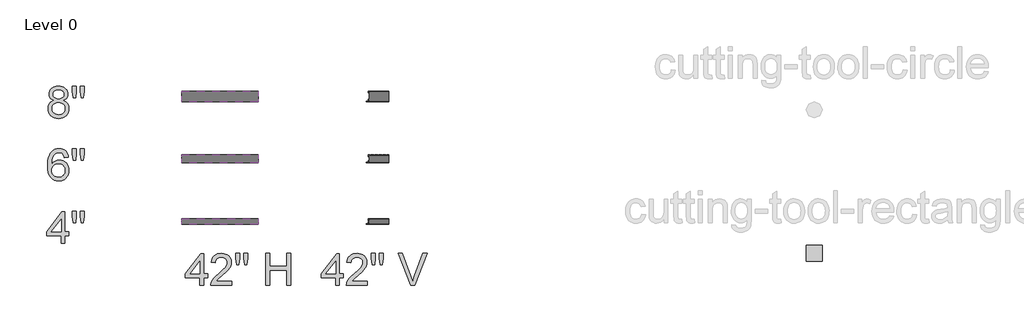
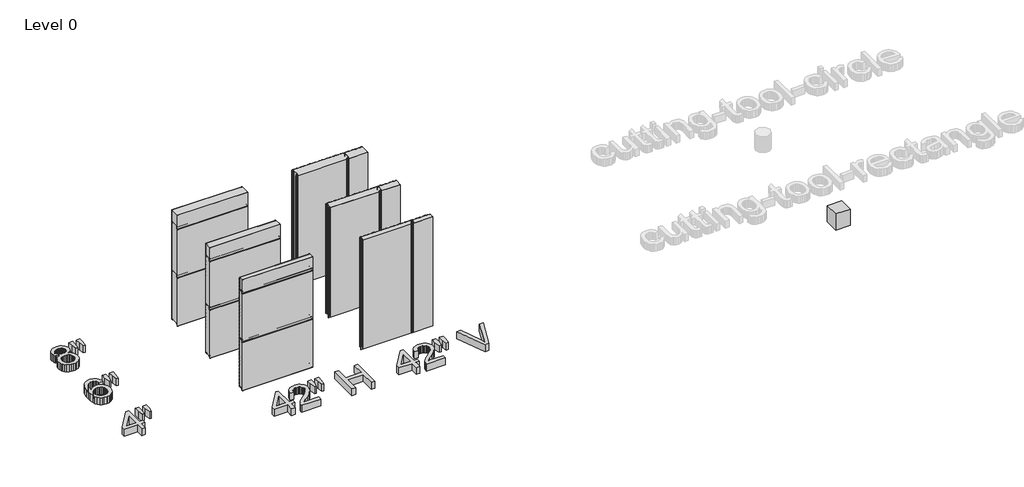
# One storey, part 1 of 3: 15 plates, 6 proxies.
"""IFC4 building model written with IfcOpenShell, lengths in millimetres."""

from ifc_helpers import new_model, si_unit, origin, origin_with_axes, place, context, project, spatial, polyline, outline, extrude, transform, mapped, element, save
from components import kingspan_ks_cutting_tool_rectangle_cutting_tool_rectangle_f435e5aa, plate_0a17265c, plate_69485673, plate_2533484a, plate_4c4554a8, plate_1017e4c0, plate_c80c6800, plate_48e6c5c1, plate_63041f73, plate_7318fa28, plate_f24b289d, plate_0e0b5b4f, plate_6cb468a7, plate_d381e52e, plate_027f6629, plate_cf5771db

model = new_model("IFC4")

# Units and contexts
model_context = context("Model", 3, world=origin())
ifc_project = project(units=[si_unit("LENGTHUNIT", "METRE", prefix="MILLI")], contexts=[model_context])

# Site, building, storey
site = spatial("IfcSite", under=ifc_project)
building = spatial("IfcBuilding", under=site)
storey = spatial("IfcBuildingStorey", under=building, Name="Level 0", Elevation=0.0)

# Proxies
placement = place(None, origin())
element("IfcBuildingElementProxy", 1, Name="24\" Arial", ObjectType="24\" Arial", at=placement, inside=storey, context=model_context, shape_type="SweptSolid", body=[
    extrude(outline(polyline([(-11480.8304674, 9099.5393595), (-11480.8304674, 9242.3051848), (-11756.8443964, 9242.3051848), (-11756.8443964, 9318.4469584), (-11461.795024, 9699.1558259), (-11404.6886939, 9699.1558259), (-11404.6886939, 9318.4469584), (-11328.5469203, 9318.4469584), (-11328.5469203, 9242.3051848), (-11404.6886939, 9242.3051848), (-11404.6886939, 9099.5393595), (-11480.8304674, 9099.5393595)]), holes=[polyline([(-11480.8304674, 9318.4469584), (-11480.8304674, 9553.7131414), (-11663.1543235, 9318.4469584), (-11480.8304674, 9318.4469584)])]), origin_with_axes(), (0.0, 0.0, 1.0), 152.4),
    extrude(outline(polyline([(-11243.3335683, 9489.7659488), (-11261.9228685, 9607.3990403), (-11261.9228685, 9708.6735476), (-11185.781095, 9708.6735476), (-11185.781095, 9607.3990403), (-11202.437108, 9489.7659488), (-11243.3335683, 9489.7659488)])), origin_with_axes(), (0.0, 0.0, 1.0), 152.4),
    extrude(outline(polyline([(-11091.4961645, 9489.7659488), (-11109.6393215, 9607.3990403), (-11109.6393215, 9708.6735476), (-11033.497548, 9708.6735476), (-11033.497548, 9607.3990403), (-11051.3432761, 9489.7659488), (-11091.4961645, 9489.7659488)])), origin_with_axes(), (0.0, 0.0, 1.0), 152.4),
])
element("IfcBuildingElementProxy", 2, Name="24\" Arial", ObjectType="24\" Arial", at=placement, inside=storey, context=model_context, shape_type="SweptSolid", body=[
    extrude(outline(polyline([(-8830.6863907, 8292.8033745), (-8830.6863907, 8435.5691999), (-9106.7003197, 8435.5691999), (-9106.7003197, 8511.7109734), (-8811.6509473, 8892.419841), (-8754.5446171, 8892.419841), (-8754.5446171, 8511.7109734), (-8678.4028436, 8511.7109734), (-8678.4028436, 8435.5691999), (-8754.5446171, 8435.5691999), (-8754.5446171, 8292.8033745), (-8830.6863907, 8292.8033745)]), holes=[polyline([(-8830.6863907, 8511.7109734), (-8830.6863907, 8746.9771564), (-9013.0102468, 8511.7109734), (-8830.6863907, 8511.7109734)])]), origin_with_axes(), (0.0, 0.0, 1.0), 152.4),
    extrude(outline(polyline([(-8221.5522025, 8368.9451481), (-8221.5522025, 8292.8033745), (-8621.2965135, 8292.8033745), (-8619.6234765, 8319.6091454), (-8613.1172214, 8345.2995582), (-8594.3420282, 8386.3261437), (-8566.8670426, 8426.1258354), (-8527.1231188, 8467.7844571), (-8471.5411113, 8514.3878326), (-8389.3764045, 8587.3694251), (-8340.0775804, 8641.241217), (-8325.6987567, 8663.2509484), (-8315.4281684, 8684.963251), (-8309.2658154, 8706.3781248), (-8307.2116977, 8727.4955698), (-8309.1496323, 8747.3628844), (-8314.9634359, 8765.6222245), (-8324.6531086, 8782.2735901), (-8338.2186504, 8797.3169813), (-8354.9071946, 8809.7764597), (-8373.9658747, 8818.6760872), (-8395.3946904, 8824.0158637), (-8419.193642, 8825.7957892), (-8444.2659606, 8824.0576896), (-8466.6893039, 8818.8433909), (-8486.463672, 8810.1528931), (-8503.5890648, 8797.9861961), (-8517.4427407, 8782.7522646), (-8527.4019583, 8764.8600632), (-8533.4667175, 8744.3095918), (-8535.6370183, 8721.1008506), (-8611.7787918, 8730.6185723), (-8605.2307108, 8769.9256475), (-8593.3196167, 8804.2693796), (-8576.0455095, 8833.6497685), (-8553.4083892, 8858.0668143), (-8525.9287563, 8877.2602667), (-8494.127111, 8890.9698756), (-8458.0034534, 8899.1956409), (-8417.5577836, 8901.9375627), (-8376.7496224, 8898.8889174), (-8340.4307771, 8889.7429818), (-8308.6012479, 8874.4997556), (-8281.2610347, 8853.159239), (-8259.3024238, 8827.3015225), (-8243.6177018, 8798.5066965), (-8234.2068686, 8766.7747611), (-8231.0699242, 8732.1057163), (-8234.4531768, 8695.6892772), (-8244.6029347, 8659.9048744), (-8262.6159666, 8623.5070247), (-8289.5890412, 8585.2502449), (-8332.5860925, 8539.5763344), (-8398.6710546, 8480.9270923), (-8486.263837, 8407.6852496), (-8520.6168637, 8368.9451481), (-8221.5522025, 8368.9451481)])), origin_with_axes(), (0.0, 0.0, 1.0), 152.4),
    extrude(outline(polyline([(-8126.8211288, 8683.0299638), (-8145.410429, 8800.6630553), (-8145.410429, 8901.9375627), (-8069.2686555, 8901.9375627), (-8069.2686555, 8800.6630553), (-8085.9246684, 8683.0299638), (-8126.8211288, 8683.0299638)])), origin_with_axes(), (0.0, 0.0, 1.0), 152.4),
    extrude(outline(polyline([(-7974.983725, 8683.0299638), (-7993.126882, 8800.6630553), (-7993.126882, 8901.9375627), (-7916.9851084, 8901.9375627), (-7916.9851084, 8800.6630553), (-7934.8308366, 8683.0299638), (-7974.983725, 8683.0299638)])), origin_with_axes(), (0.0, 0.0, 1.0), 152.4),
    extrude(outline(polyline([(-7574.3471276, 8292.8033745), (-7574.3471276, 8901.9375627), (-7498.2053541, 8901.9375627), (-7498.2053541, 8654.4767987), (-7174.6028167, 8654.4767987), (-7174.6028167, 8901.9375627), (-7098.4610431, 8901.9375627), (-7098.4610431, 8292.8033745), (-7174.6028167, 8292.8033745), (-7174.6028167, 8578.3350252), (-7498.2053541, 8578.3350252), (-7498.2053541, 8292.8033745), (-7574.3471276, 8292.8033745)])), origin_with_axes(), (0.0, 0.0, 1.0), 152.4),
])
element("IfcBuildingElementProxy", 3, Name="24\" Arial", ObjectType="24\" Arial", at=placement, inside=storey, context=model_context, shape_type="SweptSolid", body=[
    extrude(outline(polyline([(-6239.8863907, 8292.8033745), (-6239.8863907, 8435.5691999), (-6515.9003197, 8435.5691999), (-6515.9003197, 8511.7109734), (-6220.8509473, 8892.419841), (-6163.7446171, 8892.419841), (-6163.7446171, 8511.7109734), (-6087.6028436, 8511.7109734), (-6087.6028436, 8435.5691999), (-6163.7446171, 8435.5691999), (-6163.7446171, 8292.8033745), (-6239.8863907, 8292.8033745)]), holes=[polyline([(-6239.8863907, 8511.7109734), (-6239.8863907, 8746.9771564), (-6422.2102468, 8511.7109734), (-6239.8863907, 8511.7109734)])]), origin_with_axes(), (0.0, 0.0, 1.0), 152.4),
    extrude(outline(polyline([(-5630.7522025, 8368.9451481), (-5630.7522025, 8292.8033745), (-6030.4965135, 8292.8033745), (-6028.8234765, 8319.6091454), (-6022.3172214, 8345.2995582), (-6003.5420282, 8386.3261437), (-5976.0670426, 8426.1258354), (-5936.3231188, 8467.7844571), (-5880.7411113, 8514.3878326), (-5798.5764045, 8587.3694251), (-5749.2775804, 8641.241217), (-5734.8987567, 8663.2509484), (-5724.6281684, 8684.963251), (-5718.4658154, 8706.3781248), (-5716.4116977, 8727.4955698), (-5718.3496323, 8747.3628844), (-5724.1634359, 8765.6222245), (-5733.8531086, 8782.2735901), (-5747.4186504, 8797.3169813), (-5764.1071946, 8809.7764597), (-5783.1658747, 8818.6760872), (-5804.5946904, 8824.0158637), (-5828.393642, 8825.7957892), (-5853.4659606, 8824.0576896), (-5875.8893039, 8818.8433909), (-5895.663672, 8810.1528931), (-5912.7890648, 8797.9861961), (-5926.6427407, 8782.7522646), (-5936.6019583, 8764.8600632), (-5942.6667175, 8744.3095918), (-5944.8370183, 8721.1008506), (-6020.9787918, 8730.6185723), (-6014.4307108, 8769.9256475), (-6002.5196167, 8804.2693796), (-5985.2455095, 8833.6497685), (-5962.6083892, 8858.0668143), (-5935.1287563, 8877.2602667), (-5903.327111, 8890.9698756), (-5867.2034534, 8899.1956409), (-5826.7577836, 8901.9375627), (-5785.9496224, 8898.8889174), (-5749.6307771, 8889.7429818), (-5717.8012479, 8874.4997556), (-5690.4610347, 8853.159239), (-5668.5024238, 8827.3015225), (-5652.8177018, 8798.5066965), (-5643.4068686, 8766.7747611), (-5640.2699242, 8732.1057163), (-5643.6531768, 8695.6892772), (-5653.8029347, 8659.9048744), (-5671.8159666, 8623.5070247), (-5698.7890412, 8585.2502449), (-5741.7860925, 8539.5763344), (-5807.8710546, 8480.9270923), (-5895.463837, 8407.6852496), (-5929.8168637, 8368.9451481), (-5630.7522025, 8368.9451481)])), origin_with_axes(), (0.0, 0.0, 1.0), 152.4),
    extrude(outline(polyline([(-5536.0211288, 8683.0299638), (-5554.610429, 8800.6630553), (-5554.610429, 8901.9375627), (-5478.4686555, 8901.9375627), (-5478.4686555, 8800.6630553), (-5495.1246684, 8683.0299638), (-5536.0211288, 8683.0299638)])), origin_with_axes(), (0.0, 0.0, 1.0), 152.4),
    extrude(outline(polyline([(-5384.183725, 8683.0299638), (-5402.326882, 8800.6630553), (-5402.326882, 8901.9375627), (-5326.1851084, 8901.9375627), (-5326.1851084, 8800.6630553), (-5344.0308366, 8683.0299638), (-5384.183725, 8683.0299638)])), origin_with_axes(), (0.0, 0.0, 1.0), 152.4),
    extrude(outline(polyline([(-4803.6027019, 8292.8033745), (-5046.0071762, 8901.9375627), (-4964.5116842, 8901.9375627), (-4802.2642723, 8463.0813641), (-4769.3983896, 8364.1862872), (-4736.9786501, 8463.0813641), (-4574.285095, 8901.9375627), (-4492.789603, 8901.9375627), (-4724.9327836, 8292.8033745), (-4803.6027019, 8292.8033745)])), origin_with_axes(), (0.0, 0.0, 1.0), 152.4),
])
element("IfcBuildingElementProxy", 4, Name="24\" Arial", ObjectType="24\" Arial", at=placement, inside=storey, context=model_context, shape_type="SweptSolid", body=[
    extrude(outline(polyline([(-11338.064642, 10741.6722789), (-11414.2064155, 10732.1545572), (-11426.4753537, 10769.8908366), (-11443.0570094, 10795.6556066), (-11459.4248882, 10809.5139299), (-11477.5959291, 10819.4127322), (-11497.5701322, 10825.3520136), (-11519.3474973, 10827.3317741), (-11554.7415249, 10822.7216277), (-11588.0535508, 10808.8911883), (-11616.6624838, 10779.761755), (-11640.0292341, 10739.6646345), (-11649.1612278, 10714.0904048), (-11655.8115499, 10682.9486797), (-11661.6671795, 10603.9627432), (-11631.1249593, 10639.5984316), (-11594.5226272, 10664.7125762), (-11553.9050064, 10679.6026056), (-11511.3169197, 10684.5659488), (-11474.7331769, 10681.1734015), (-11440.9750078, 10670.9957596), (-11410.0424123, 10654.0330232), (-11381.9353904, 10630.2851923), (-11358.5779348, 10601.1650535), (-11341.8940379, 10568.0853939), (-11331.8836997, 10531.0462133), (-11328.5469203, 10490.0475117), (-11330.1177162, 10462.2890393), (-11334.8301038, 10435.5250943), (-11342.6840831, 10409.755677), (-11353.6796542, 10384.9807872), (-11367.4264417, 10362.1252426), (-11383.5340703, 10342.1138609), (-11402.00254, 10324.9466422), (-11422.8318508, 10310.6235865), (-11445.5758596, 10299.3352339), (-11469.7884231, 10291.272125), (-11495.4695413, 10286.4342596), (-11522.6192142, 10284.8216378), (-11568.0096379, 10289.0971768), (-11609.0036921, 10301.923794), (-11645.6013768, 10323.3014892), (-11677.802692, 10353.2302625), (-11704.0554312, 10392.9741862), (-11722.8073878, 10443.7973329), (-11734.0585617, 10505.6997025), (-11737.808953, 10578.681295), (-11733.6449498, 10660.5020997), (-11721.15294, 10730.3328058), (-11700.3329238, 10788.1734133), (-11686.7999133, 10812.5974301), (-11671.1849012, 10834.0239222), (-11639.5923855, 10864.4081333), (-11602.9621695, 10886.1111413), (-11561.2942532, 10899.132946), (-11514.5886365, 10903.4735476), (-11479.5199217, 10900.7873938), (-11447.7786917, 10892.7289321), (-11419.3649463, 10879.2981628), (-11394.2786858, 10860.4950856), (-11373.1984194, 10836.951737), (-11356.8026566, 10809.3001529), (-11345.0913975, 10777.5403336), (-11338.064642, 10741.6722789)]), holes=[polyline([(-11661.6671795, 10491.237227), (-11657.2615153, 10457.4976471), (-11644.0445229, 10425.2823899), (-11623.5219355, 10397.5843327), (-11597.1994865, 10377.3963527), (-11565.4303725, 10365.0716467), (-11528.5677902, 10360.9634113), (-11502.1012741, 10363.0918862), (-11478.3209119, 10369.4773108), (-11457.2267035, 10380.1196852), (-11438.818649, 10395.0190092), (-11423.8867936, 10413.5711308), (-11413.2211826, 10435.1718976), (-11406.8218161, 10459.8213097), (-11404.6886939, 10487.5193669), (-11406.7939321, 10514.1345974), (-11413.1096468, 10537.7662453), (-11423.6358381, 10558.4143105), (-11438.3725058, 10576.078793), (-11456.8363282, 10590.2298977), (-11478.5439835, 10600.3378297), (-11503.4954716, 10606.4025889), (-11531.6907927, 10608.4241753), (-11557.8041121, 10606.4025889), (-11581.8633138, 10600.3378297), (-11603.8683979, 10590.2298977), (-11623.8193643, 10576.078793), (-11640.3777835, 10558.6466767), (-11652.2052257, 10538.6957103), (-11659.301691, 10516.2258937), (-11661.6671795, 10491.237227)])]), origin_with_axes(), (0.0, 0.0, 1.0), 152.4),
    extrude(outline(polyline([(-11243.3335683, 10684.5659488), (-11261.9228685, 10802.1990403), (-11261.9228685, 10903.4735476), (-11185.781095, 10903.4735476), (-11185.781095, 10802.1990403), (-11202.437108, 10684.5659488), (-11243.3335683, 10684.5659488)])), origin_with_axes(), (0.0, 0.0, 1.0), 152.4),
    extrude(outline(polyline([(-11091.4961645, 10684.5659488), (-11109.6393215, 10802.1990403), (-11109.6393215, 10903.4735476), (-11033.497548, 10903.4735476), (-11033.497548, 10802.1990403), (-11051.3432761, 10684.5659488), (-11091.4961645, 10684.5659488)])), origin_with_axes(), (0.0, 0.0, 1.0), 152.4),
])
element("IfcBuildingElementProxy", 5, Name="24\" Arial", ObjectType="24\" Arial", at=placement, inside=storey, context=model_context, shape_type="SweptSolid", body=[
    extrude(outline(polyline([(-11617.3502879, 11821.2374755), (-11658.1166231, 11841.3139197), (-11673.9407649, 11854.029001), (-11686.7255561, 11868.5286551), (-11696.5825325, 11884.6734623), (-11703.62323, 11902.3240029), (-11709.2557879, 11942.1422838), (-11706.1885534, 11973.1957098), (-11696.9868498, 12001.665223), (-11681.6506772, 12027.5508235), (-11660.1800355, 12050.8525113), (-11633.6066309, 12070.1110262), (-11602.9621695, 12083.8671084), (-11568.2466515, 12092.1207576), (-11529.4600766, 12094.8719741), (-11490.4876088, 12092.0556951), (-11455.5118405, 12083.6068582), (-11424.5327718, 12069.5254633), (-11397.5504026, 12049.8115104), (-11375.6893856, 12026.0543848), (-11360.0743734, 11999.8434716), (-11350.7053662, 11971.1787707), (-11347.5823637, 11940.0602822), (-11353.1405645, 11901.5246629), (-11369.8151667, 11868.3055835), (-11382.3675917, 11853.9035232), (-11397.7920635, 11841.2581518), (-11437.2571478, 11821.2374755), (-11412.2313024, 11810.5904538), (-11390.393522, 11797.0899746), (-11371.7438066, 11780.7360377), (-11356.2821562, 11761.5286433), (-11344.1479905, 11739.8953452), (-11335.4807293, 11716.2636974), (-11330.2803726, 11690.6336998), (-11328.5469203, 11663.0053524), (-11331.9859409, 11625.0274121), (-11342.3030025, 11590.2096529), (-11359.4981051, 11558.5520747), (-11383.5712489, 11530.0546775), (-11413.2583612, 11506.5020342), (-11447.2953699, 11489.6787176), (-11485.6822747, 11479.5847276), (-11528.4190758, 11476.2200642), (-11571.1558769, 11479.5986695), (-11609.5427818, 11489.7344855), (-11643.5797904, 11506.627512), (-11673.2669028, 11530.2777491), (-11697.3400465, 11558.9749813), (-11714.5351492, 11591.0089928), (-11724.8522108, 11626.3797837), (-11728.2912313, 11665.087354), (-11726.4880692, 11693.9751265), (-11721.0785828, 11720.4091113), (-11712.0627723, 11744.3893086), (-11699.4406374, 11765.9157182), (-11683.4910179, 11784.5979648), (-11664.4927531, 11800.0456733), (-11642.4458431, 11812.2588435), (-11617.3502879, 11821.2374755)]), holes=[polyline([(-11633.1140144, 11939.9115678), (-11631.4270354, 11922.4562149), (-11626.3660984, 11906.6738991), (-11617.9312035, 11892.5646203), (-11606.1223506, 11880.1283784), (-11591.088254, 11869.9786205), (-11572.9776283, 11862.7287935), (-11551.7904735, 11858.3788972), (-11527.5267894, 11856.9289318), (-11503.8626103, 11858.3696026), (-11483.1355406, 11862.6916149), (-11465.3455803, 11869.8949687), (-11450.4927295, 11879.979664), (-11438.7814704, 11892.1556557), (-11430.4162853, 11905.6328983), (-11425.3971743, 11920.4113919), (-11423.7241372, 11936.4911366), (-11425.4529422, 11953.1982701), (-11430.6393569, 11968.5205008), (-11439.2833815, 11982.4578286), (-11451.3850159, 11995.0102535), (-11466.5724741, 12005.3877303), (-11484.4739702, 12012.8002138), (-11505.0895041, 12017.2477039), (-11528.4190758, 12018.7302005), (-11551.9298932, 12017.2802351), (-11572.6430209, 12012.9303389), (-11590.558459, 12005.6805118), (-11605.6762074, 11995.5307539), (-11617.6802479, 11983.3547623), (-11626.2545626, 11970.0262341), (-11631.3991515, 11955.5451693), (-11633.1140144, 11939.9115678)]), polyline([(-11652.1494578, 11667.7642132), (-11648.9706875, 11638.6347799), (-11639.4343765, 11610.4348115), (-11621.8303092, 11585.8411674), (-11594.44827, 11567.5307067), (-11561.6567445, 11556.154055), (-11527.8242182, 11552.3618378), (-11500.2934647, 11554.3555402), (-11475.9972493, 11560.3366475), (-11454.9355722, 11570.3051598), (-11437.1084334, 11584.2610769), (-11422.9247973, 11601.2935231), (-11412.7936287, 11620.4916229), (-11406.7149276, 11641.8553761), (-11404.6886939, 11665.3847828), (-11406.7799901, 11689.2906228), (-11413.0538789, 11711.0401041), (-11423.5103603, 11730.6332264), (-11438.1494342, 11748.06999), (-11456.4598948, 11762.3837511), (-11477.9305365, 11772.6078662), (-11502.5613593, 11778.7423353), (-11530.352363, 11780.7871583), (-11557.4787993, 11778.7702192), (-11581.4543492, 11772.719402), (-11602.2790127, 11762.6347067), (-11619.9527899, 11748.5161332), (-11634.0388321, 11731.3675038), (-11644.1002908, 11712.1926407), (-11650.137166, 11690.9915438), (-11652.1494578, 11667.7642132)])]), origin_with_axes(), (0.0, 0.0, 1.0), 152.4),
    extrude(outline(polyline([(-11243.3335683, 11875.9643752), (-11261.9228685, 11993.5974667), (-11261.9228685, 12094.8719741), (-11185.781095, 12094.8719741), (-11185.781095, 11993.5974667), (-11202.437108, 11875.9643752), (-11243.3335683, 11875.9643752)])), origin_with_axes(), (0.0, 0.0, 1.0), 152.4),
    extrude(outline(polyline([(-11091.4961645, 11875.9643752), (-11109.6393215, 11993.5974667), (-11109.6393215, 12094.8719741), (-11033.497548, 12094.8719741), (-11033.497548, 11993.5974667), (-11051.3432761, 11875.9643752), (-11091.4961645, 11875.9643752)])), origin_with_axes(), (0.0, 0.0, 1.0), 152.4),
])
kingspan_ks_cutting_tool_rectangle_cutting_tool_rectangle_shape = kingspan_ks_cutting_tool_rectangle_cutting_tool_rectangle_f435e5aa(model_context)
element("IfcBuildingElementProxy", 6, Name="kingspan-ks-cutting-tool-rectangle : cutting-tool-rectangle", ObjectType="kingspan-ks-cutting-tool-rectangle : cutting-tool-rectangle", at=placement, inside=storey, context=model_context, shape_type="MappedRepresentation", body=[
    mapped(kingspan_ks_cutting_tool_rectangle_cutting_tool_rectangle_shape, transform((2901.78666, 8906.1027937, 0.0), x_axis=(1.0, 0.0, 0.0), y_axis=(0.0, 1.0, 0.0), z_axis=(0.0, 0.0, 1.0))),
])

# Plates
plate_shape = plate_0a17265c(model_context)
element("IfcPlate", 7, ObjectType="KIP-42-KRHF-R19-CP-Hz-FL_SL : Hz 4\"", at=placement, inside=storey, context=model_context, shape_type="MappedRepresentation", body=[
    mapped(plate_shape, transform((-8448.7250935, 9562.4222907, 0.0), x_axis=(1.0, 0.0, 0.0), y_axis=(0.0, 1.0, 0.0), z_axis=(0.0, 0.0, 1.0))),
])
element("IfcPlate", 8, ObjectType="KIP-42-KRHF-R19-CP-Hz-FL_SL : Hz 4\"", at=placement, inside=storey, context=model_context, shape_type="MappedRepresentation", body=[
    mapped(plate_shape, transform((-8448.7250935, 9562.4222907, 1066.8), x_axis=(1.0, 0.0, 0.0), y_axis=(0.0, 1.0, 0.0), z_axis=(0.0, 0.0, 1.0))),
])
plate_2_shape = plate_69485673(model_context)
element("IfcPlate", 9, ObjectType="KIP-42-KRHF-R19-CP-Hz-FL_SL : Hz 4\"", at=placement, inside=storey, context=model_context, shape_type="MappedRepresentation", body=[
    mapped(plate_2_shape, transform((-8448.7250935, 9562.4222907, 2133.6), x_axis=(1.0, 0.0, 0.0), y_axis=(0.0, 1.0, 0.0), z_axis=(0.0, 0.0, 1.0))),
])
plate_3_shape = plate_2533484a(model_context)
element("IfcPlate", 10, ObjectType="KIP-42-KRHF-R19-CP-Hz-FL_SL : Hz 6\"", at=placement, inside=storey, context=model_context, shape_type="MappedRepresentation", body=[
    mapped(plate_3_shape, transform((-8448.7250935, 10781.6222907, 0.0), x_axis=(1.0, 0.0, 0.0), y_axis=(0.0, 1.0, 0.0), z_axis=(0.0, 0.0, 1.0))),
])
element("IfcPlate", 11, ObjectType="KIP-42-KRHF-R19-CP-Hz-FL_SL : Hz 6\"", at=placement, inside=storey, context=model_context, shape_type="MappedRepresentation", body=[
    mapped(plate_3_shape, transform((-8448.7250935, 10781.6222907, 1066.8), x_axis=(1.0, 0.0, 0.0), y_axis=(0.0, 1.0, 0.0), z_axis=(0.0, 0.0, 1.0))),
])
plate_4_shape = plate_4c4554a8(model_context)
element("IfcPlate", 12, ObjectType="KIP-42-KRHF-R19-CP-Hz-FL_SL : Hz 6\"", at=placement, inside=storey, context=model_context, shape_type="MappedRepresentation", body=[
    mapped(plate_4_shape, transform((-8448.7250935, 10781.6222907, 2133.6), x_axis=(1.0, 0.0, 0.0), y_axis=(0.0, 1.0, 0.0), z_axis=(0.0, 0.0, 1.0))),
])
plate_5_shape = plate_1017e4c0(model_context)
element("IfcPlate", 13, ObjectType="KIP-42-KRHF-R19-CP-Hz-FL_SL : Hz 8\"", at=placement, inside=storey, context=model_context, shape_type="MappedRepresentation", body=[
    mapped(plate_5_shape, transform((-8448.7250935, 11999.4207172, 0.0), x_axis=(1.0, 0.0, 0.0), y_axis=(0.0, 1.0, 0.0), z_axis=(0.0, 0.0, 1.0))),
])
element("IfcPlate", 14, ObjectType="KIP-42-KRHF-R19-CP-Hz-FL_SL : Hz 8\"", at=placement, inside=storey, context=model_context, shape_type="MappedRepresentation", body=[
    mapped(plate_5_shape, transform((-8448.7250935, 11999.4207172, 1066.8), x_axis=(1.0, 0.0, 0.0), y_axis=(0.0, 1.0, 0.0), z_axis=(0.0, 0.0, 1.0))),
])
plate_6_shape = plate_c80c6800(model_context)
element("IfcPlate", 15, ObjectType="KIP-42-KRHF-R19-CP-Hz-FL_SL : Hz 8\"", at=placement, inside=storey, context=model_context, shape_type="MappedRepresentation", body=[
    mapped(plate_6_shape, transform((-8448.7250935, 11999.4207172, 2133.6), x_axis=(1.0, 0.0, 0.0), y_axis=(0.0, 1.0, 0.0), z_axis=(0.0, 0.0, 1.0))),
])
plate_7_shape = plate_48e6c5c1(model_context)
plate_8_shape = plate_63041f73(model_context)
element("IfcPlate", 16, ObjectType="KIP-42-KRHF-R19-CP-Vt-FL_SL : Vt 4\"", at=placement, inside=storey, context=model_context, shape_type="MappedRepresentation", body=[
    mapped(plate_7_shape, transform((-6145.5413834, 9561.0207172, 0.0), x_axis=(1.0, 0.0, 0.0), y_axis=(0.0, 1.0, 0.0), z_axis=(0.0, 0.0, 1.0))),
    mapped(plate_8_shape, transform((-6145.5413834, 9561.0207172, 0.0), x_axis=(1.0, 0.0, 0.0), y_axis=(0.0, 1.0, 0.0), z_axis=(0.0, 0.0, 1.0))),
])
plate_9_shape = plate_7318fa28(model_context)
element("IfcPlate", 17, ObjectType="KIP-42-KRHF-R19-CP-Vt-FL_SL : Vt 4\"", at=placement, inside=storey, context=model_context, shape_type="MappedRepresentation", body=[
    mapped(plate_9_shape, transform((-5415.5413834, 9561.0207172, 0.0), x_axis=(1.0, 0.0, 0.0), y_axis=(0.0, 1.0, 0.0), z_axis=(0.0, 0.0, 1.0))),
])
plate_10_shape = plate_f24b289d(model_context)
plate_11_shape = plate_0e0b5b4f(model_context)
element("IfcPlate", 18, ObjectType="KIP-42-KRHF-R19-CP-Vt-FL_SL : Vt 6\"", at=placement, inside=storey, context=model_context, shape_type="MappedRepresentation", body=[
    mapped(plate_10_shape, transform((-6145.5413834, 10780.2207172, 0.0), x_axis=(1.0, 0.0, 0.0), y_axis=(0.0, 1.0, 0.0), z_axis=(0.0, 0.0, 1.0))),
    mapped(plate_11_shape, transform((-6145.5413834, 10780.2207172, 0.0), x_axis=(1.0, 0.0, 0.0), y_axis=(0.0, 1.0, 0.0), z_axis=(0.0, 0.0, 1.0))),
])
plate_12_shape = plate_6cb468a7(model_context)
element("IfcPlate", 19, ObjectType="KIP-42-KRHF-R19-CP-Vt-FL_SL : Vt 6\"", at=placement, inside=storey, context=model_context, shape_type="MappedRepresentation", body=[
    mapped(plate_12_shape, transform((-5415.5413834, 10780.2207172, 0.0), x_axis=(1.0, 0.0, 0.0), y_axis=(0.0, 1.0, 0.0), z_axis=(0.0, 0.0, 1.0))),
])
plate_13_shape = plate_d381e52e(model_context)
plate_14_shape = plate_027f6629(model_context)
element("IfcPlate", 20, ObjectType="KIP-42-KRHF-R19-CP-Vt-FL_SL : Vt 8\"", at=placement, inside=storey, context=model_context, shape_type="MappedRepresentation", body=[
    mapped(plate_13_shape, transform((-6145.5413834, 11999.4207172, 0.0), x_axis=(1.0, 0.0, 0.0), y_axis=(0.0, 1.0, 0.0), z_axis=(0.0, 0.0, 1.0))),
    mapped(plate_14_shape, transform((-6145.5413834, 11999.4207172, 0.0), x_axis=(1.0, 0.0, 0.0), y_axis=(0.0, 1.0, 0.0), z_axis=(0.0, 0.0, 1.0))),
])
plate_15_shape = plate_cf5771db(model_context)
element("IfcPlate", 21, ObjectType="KIP-42-KRHF-R19-CP-Vt-FL_SL : Vt 8\"", at=placement, inside=storey, context=model_context, shape_type="MappedRepresentation", body=[
    mapped(plate_15_shape, transform((-5415.5413834, 11999.4207172, 0.0), x_axis=(1.0, 0.0, 0.0), y_axis=(0.0, 1.0, 0.0), z_axis=(0.0, 0.0, 1.0))),
])

save(model, "model.ifc")
